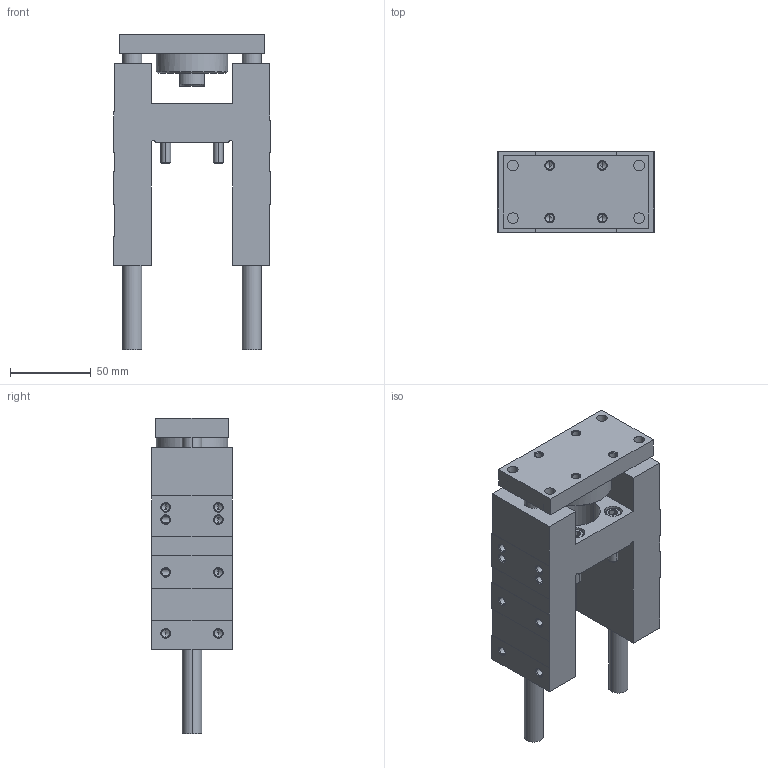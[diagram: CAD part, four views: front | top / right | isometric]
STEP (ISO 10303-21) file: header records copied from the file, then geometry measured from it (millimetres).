
FILE_DESCRIPTION (( 'STEP AP203' ), '1' );
FILE_NAME ('GB32-40.STEP', '2020-04-24T11:06:53', ( '' ), ( '' ), 'SwSTEP 2.0', 'SolidWorks 2019', '' );
FILE_SCHEMA (( 'CONFIG_CONTROL_DESIGN' ));
Length unit declared in the file: millimetre
Products named in the file (1): GB32-40
Bounding box: 97 x 50 x 195 mm (x, y, z)
Volume: 402984.1 mm3; surface area: 95372.3 mm2
Topology: 6 solids, 6 shells, 377 faces, 862 edges, 494 vertices
Faces by surface type: cone 154, plane 117, cylinder 106
Entity records: 11155 total; most frequent: CARTESIAN_POINT 2540, DIRECTION 1916, ORIENTED_EDGE 1660, EDGE_CURVE 830, AXIS2_PLACEMENT_3D 756, VERTEX_POINT 494, EDGE_LOOP 444, LINE 404
